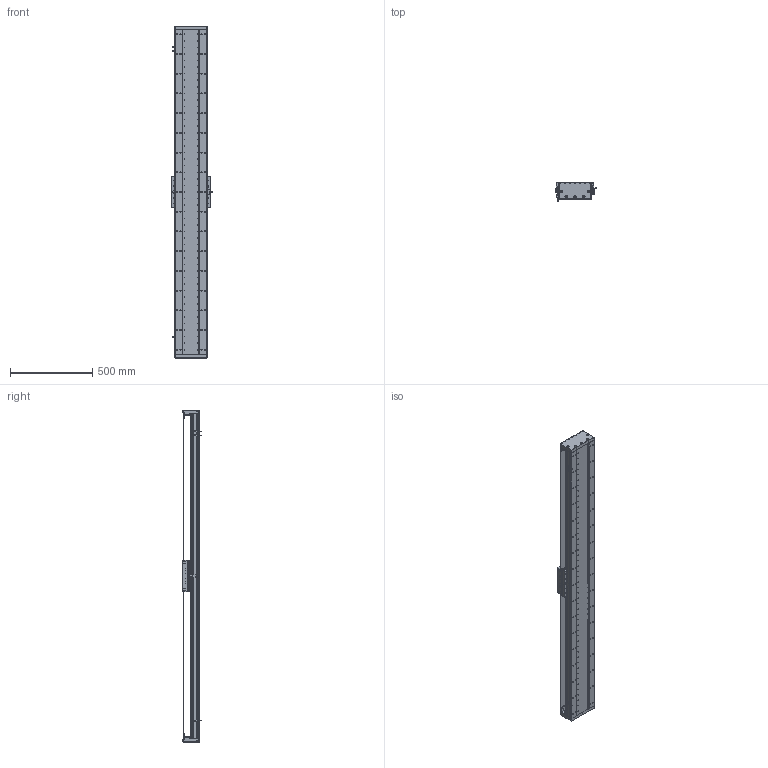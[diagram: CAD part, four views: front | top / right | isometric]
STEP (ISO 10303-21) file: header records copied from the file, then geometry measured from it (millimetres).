
FILE_DESCRIPTION (( 'STEP AP203' ), '1' );
FILE_NAME ('DA-C195-C2-T1740-C010-0.2 眻盄萇儂.STEP', '2025-08-15T01:08:08', ( '' ), ( '' ), 'SwSTEP 2.0', 'SolidWorks 2019', '' );
FILE_SCHEMA (( 'CONFIG_CONTROL_DESIGN' ));
Length unit declared in the file: millimetre
Products named in the file (15): IU-CU195-L-00 菁釱(L1980); PM-T45ㄗ侂狟ㄘ; DA195詩湍裔啣; DA165-GYP-00 光电感应片(默认); DA195詩湍菜輸; DA195詩湍郪璃; DA-C195-GD-DB-H-00 傷啣; IU-CU195-L 菁釱絳寢; MS200 棠掑喜S315-T1740; DA195詩湍嶺輸; LMT黍杅芛; DA-C195-C2-T1740-C010-0.2 眻盄萇儂; CU195-C2賑輸-俋楷; 葩璃 DA95-GT-T-00; DA95-HXJ-00 遣喳砎蝶
Assembly tree (29 placements, depth 3):
  DA-C195-C2-T1740-C010-0.2 眻盄萇儂
    DA195詩湍郪璃
      DA195詩湍菜輸  x2
      DA195詩湍裔啣
      DA195詩湍嶺輸  x2
      DA95-HXJ-00 遣喳砎蝶  x8
      DA-C195-GD-DB-H-00 傷啣  x2
    IU-CU195-L 菁釱絳寢
      IU-CU195-L-00 菁釱(L1980)
      葩璃 DA95-GT-T-00  x4
    LMT黍杅芛
    MS200 棠掑喜S315-T1740
    PM-T45ㄗ侂狟ㄘ  x3
    DA165-GYP-00 光电感应片(默认)
    CU195-C2賑輸-俋楷
Bounding box: 248 x 115.45 x 2020 mm (x, y, z)
Volume: 12026296.6 mm3; surface area: 3519181.5 mm2
Topology: 66 solids, 130 shells, 4144 faces, 11323 edges, 7095 vertices
Faces by surface type: cylinder 2135, plane 1391, cone 530, torus 52, sphere 36
Entity records: 127963 total; most frequent: CARTESIAN_POINT 33182, ORIENTED_EDGE 19530, DIRECTION 19256, EDGE_CURVE 9765, AXIS2_PLACEMENT_3D 7221, VERTEX_POINT 6297, VECTOR 4814, LINE 4814
